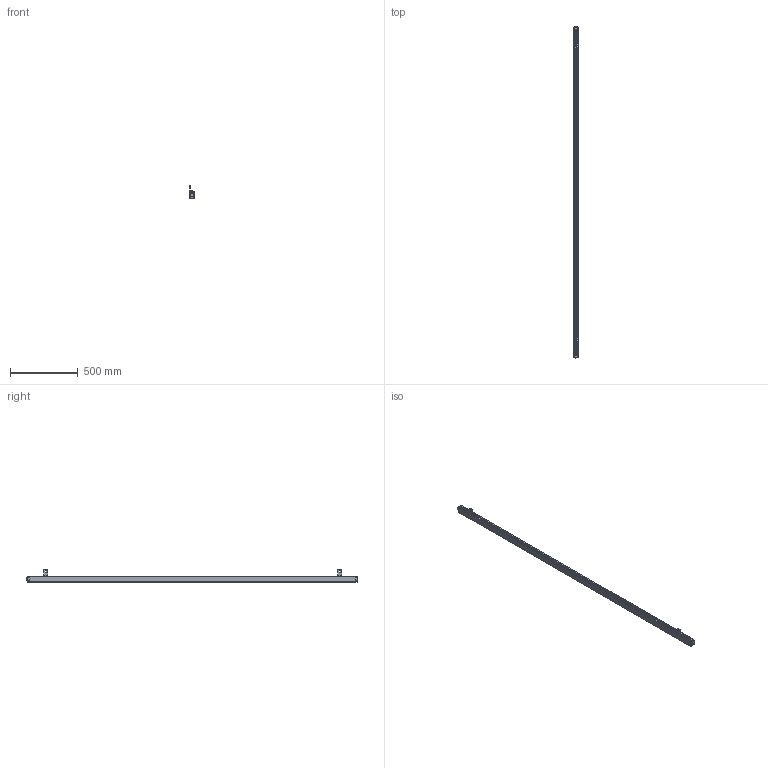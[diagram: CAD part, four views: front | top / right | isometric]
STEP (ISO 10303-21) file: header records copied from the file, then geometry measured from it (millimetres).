
FILE_DESCRIPTION((''),'2;1');
FILE_NAME('ESCL-00_ASM','2021-07-17T10:42:00',('18720616900'),(''),'CREO PARAMETRIC BY PTC INC, 2019010','CREO PARAMETRIC BY PTC INC, 2019010','');
FILE_SCHEMA(('CONFIG_CONTROL_DESIGN'));
Products named in the file (12): ESCL-00; ESCL-3-SOLID1000; ESCL-4-SOLID1000; HKCT1_-4-SOLID1; L10001; M6-8--0001; M6-1--00; M6-1-00; 00; M6-80001_ASM; L1--0001_ASM; ESCL-00_ASM
Assembly tree (12 placements, depth 4):
  ESCL-00_ASM
    ESCL-00
    ESCL-3-SOLID1000
    ESCL-4-SOLID1000
    HKCT1_-4-SOLID1
    L1--0001_ASM  x2
      L10001
      M6-80001_ASM
        M6-8--0001
        M6-1--00
        M6-1-00
        00
Bounding box: 36.1 x 2445.1 x 91.11 mm (x, y, z)
Volume: 3499371.3 mm3; surface area: 500511.9 mm2
Topology: 14 solids, 14 shells, 625 faces, 1645 edges, 1070 vertices
Faces by surface type: plane 226, cylinder 208, cone 78, bspline 66, torus 47
Entity records: 76177 total; most frequent: CARTESIAN_POINT 63991, ORIENTED_EDGE 2664, DIRECTION 2275, EDGE_CURVE 1332, VERTEX_POINT 872, AXIS2_PLACEMENT_3D 816, VECTOR 643, LINE 643
